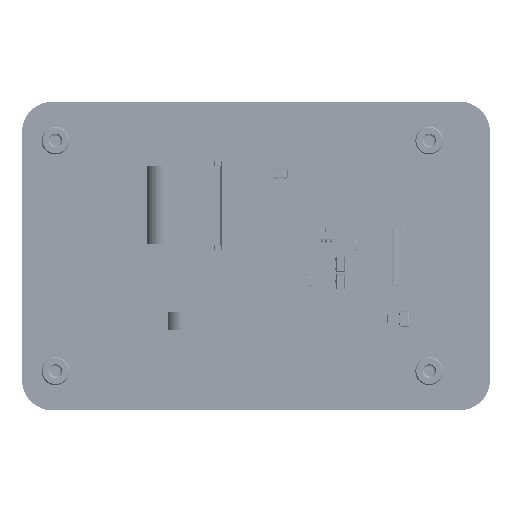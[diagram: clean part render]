
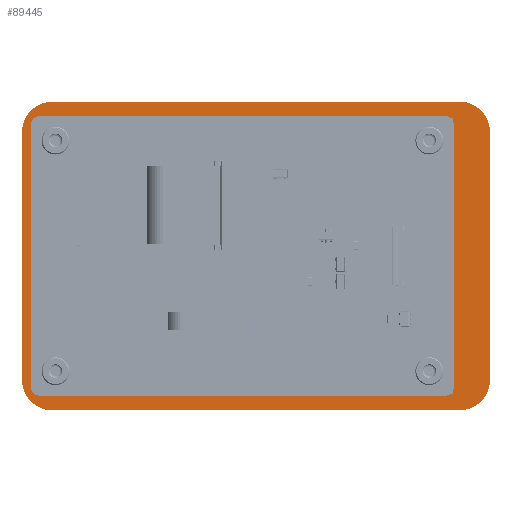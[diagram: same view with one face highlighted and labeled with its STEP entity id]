
A CAD part, top view. The second image highlights one B-rep face of the part: STEP entity #89445.
In plain terms, the highlighted planar face has unit normal (0, 0, 1) as drawn and (0, 0, -1) by its records, which use the part's own axes.
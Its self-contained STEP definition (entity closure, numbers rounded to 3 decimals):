
#2943=FACE_BOUND('',#16286,.T.);
#3429=CIRCLE('',#94595,6.);
#3430=CIRCLE('',#94596,6.);
#3431=CIRCLE('',#94597,6.);
#3432=CIRCLE('',#94598,6.);
#6942=PLANE('',#94594);
#11466=FACE_OUTER_BOUND('',#16285,.T.);
#16285=EDGE_LOOP('',(#83160,#83161,#83162,#83163,#83164,#83165,#83166,#83167));
#16286=EDGE_LOOP('',(#83168,#83169,#83170,#83171));
#27131=LINE('',#166708,#37695);
#27135=LINE('',#166719,#37699);
#27136=LINE('',#166723,#37700);
#27137=LINE('',#166727,#37701);
#27138=LINE('',#166730,#37702);
#27139=LINE('',#166732,#37703);
#27140=LINE('',#166734,#37704);
#27141=LINE('',#166735,#37705);
#37695=VECTOR('',#114782,10.);
#37699=VECTOR('',#114790,10.);
#37700=VECTOR('',#114793,10.);
#37701=VECTOR('',#114796,10.);
#37702=VECTOR('',#114799,10.);
#37703=VECTOR('',#114800,10.);
#37704=VECTOR('',#114801,10.);
#37705=VECTOR('',#114802,10.);
#45852=VERTEX_POINT('',#166706);
#45853=VERTEX_POINT('',#166707);
#45856=VERTEX_POINT('',#166715);
#45857=VERTEX_POINT('',#166716);
#45858=VERTEX_POINT('',#166718);
#45859=VERTEX_POINT('',#166720);
#45860=VERTEX_POINT('',#166722);
#45861=VERTEX_POINT('',#166724);
#45862=VERTEX_POINT('',#166726);
#45863=VERTEX_POINT('',#166728);
#45864=VERTEX_POINT('',#166731);
#45865=VERTEX_POINT('',#166733);
#58292=EDGE_CURVE('',#45852,#45853,#27131,.T.);
#58296=EDGE_CURVE('',#45856,#45857,#3429,.T.);
#58297=EDGE_CURVE('',#45858,#45856,#27135,.T.);
#58298=EDGE_CURVE('',#45859,#45858,#3430,.T.);
#58299=EDGE_CURVE('',#45860,#45859,#27136,.T.);
#58300=EDGE_CURVE('',#45861,#45860,#3431,.T.);
#58301=EDGE_CURVE('',#45862,#45861,#27137,.T.);
#58302=EDGE_CURVE('',#45863,#45862,#3432,.T.);
#58303=EDGE_CURVE('',#45857,#45863,#27138,.T.);
#58304=EDGE_CURVE('',#45864,#45852,#27139,.T.);
#58305=EDGE_CURVE('',#45853,#45865,#27140,.T.);
#58306=EDGE_CURVE('',#45865,#45864,#27141,.T.);
#83160=ORIENTED_EDGE('',*,*,#58296,.F.);
#83161=ORIENTED_EDGE('',*,*,#58297,.F.);
#83162=ORIENTED_EDGE('',*,*,#58298,.F.);
#83163=ORIENTED_EDGE('',*,*,#58299,.F.);
#83164=ORIENTED_EDGE('',*,*,#58300,.F.);
#83165=ORIENTED_EDGE('',*,*,#58301,.F.);
#83166=ORIENTED_EDGE('',*,*,#58302,.F.);
#83167=ORIENTED_EDGE('',*,*,#58303,.F.);
#83168=ORIENTED_EDGE('',*,*,#58304,.T.);
#83169=ORIENTED_EDGE('',*,*,#58292,.T.);
#83170=ORIENTED_EDGE('',*,*,#58305,.T.);
#83171=ORIENTED_EDGE('',*,*,#58306,.T.);
#89445=ADVANCED_FACE('',(#11466,#2943),#6942,.F.);
#94594=AXIS2_PLACEMENT_3D('',#166714,#114786,#114787);
#94595=AXIS2_PLACEMENT_3D('',#166717,#114788,#114789);
#94596=AXIS2_PLACEMENT_3D('',#166721,#114791,#114792);
#94597=AXIS2_PLACEMENT_3D('',#166725,#114794,#114795);
#94598=AXIS2_PLACEMENT_3D('',#166729,#114797,#114798);
#114782=DIRECTION('',(0.,-1.,0.));
#114786=DIRECTION('center_axis',(0.,0.,1.));
#114787=DIRECTION('ref_axis',(1.,0.,0.));
#114788=DIRECTION('center_axis',(0.,0.,1.));
#114789=DIRECTION('ref_axis',(-0.707,0.707,0.));
#114790=DIRECTION('',(-1.,0.,0.));
#114791=DIRECTION('center_axis',(0.,0.,1.));
#114792=DIRECTION('ref_axis',(0.707,0.707,0.));
#114793=DIRECTION('',(0.,1.,0.));
#114794=DIRECTION('center_axis',(0.,0.,1.));
#114795=DIRECTION('ref_axis',(0.707,-0.707,0.));
#114796=DIRECTION('',(1.,0.,0.));
#114797=DIRECTION('center_axis',(0.,0.,1.));
#114798=DIRECTION('ref_axis',(-0.707,-0.707,0.));
#114799=DIRECTION('',(0.,-1.,0.));
#114800=DIRECTION('',(-1.,0.,0.));
#114801=DIRECTION('',(1.,0.,0.));
#114802=DIRECTION('',(0.,1.,0.));
#166706=CARTESIAN_POINT('',(-43.35,26.25,0.));
#166707=CARTESIAN_POINT('',(-43.35,-26.25,0.));
#166708=CARTESIAN_POINT('',(-43.35,-13.125,0.));
#166714=CARTESIAN_POINT('Origin',(0.,0.,0.));
#166715=CARTESIAN_POINT('',(-40.22,30.5,0.));
#166716=CARTESIAN_POINT('',(-46.22,24.5,0.));
#166717=CARTESIAN_POINT('Origin',(-40.22,24.5,0.));
#166718=CARTESIAN_POINT('',(40.22,30.5,0.));
#166719=CARTESIAN_POINT('',(46.22,30.5,0.));
#166720=CARTESIAN_POINT('',(46.22,24.5,0.));
#166721=CARTESIAN_POINT('Origin',(40.22,24.5,0.));
#166722=CARTESIAN_POINT('',(46.22,-24.5,0.));
#166723=CARTESIAN_POINT('',(46.22,-30.5,0.));
#166724=CARTESIAN_POINT('',(40.22,-30.5,0.));
#166725=CARTESIAN_POINT('Origin',(40.22,-24.5,0.));
#166726=CARTESIAN_POINT('',(-40.22,-30.5,0.));
#166727=CARTESIAN_POINT('',(-46.22,-30.5,0.));
#166728=CARTESIAN_POINT('',(-46.22,-24.5,0.));
#166729=CARTESIAN_POINT('Origin',(-40.22,-24.5,0.));
#166730=CARTESIAN_POINT('',(-46.22,30.5,0.));
#166731=CARTESIAN_POINT('',(38.3,26.25,0.));
#166732=CARTESIAN_POINT('',(-20.413,26.25,0.));
#166733=CARTESIAN_POINT('',(38.3,-26.25,0.));
#166734=CARTESIAN_POINT('',(-20.413,-26.25,0.));
#166735=CARTESIAN_POINT('',(38.3,13.125,0.));
